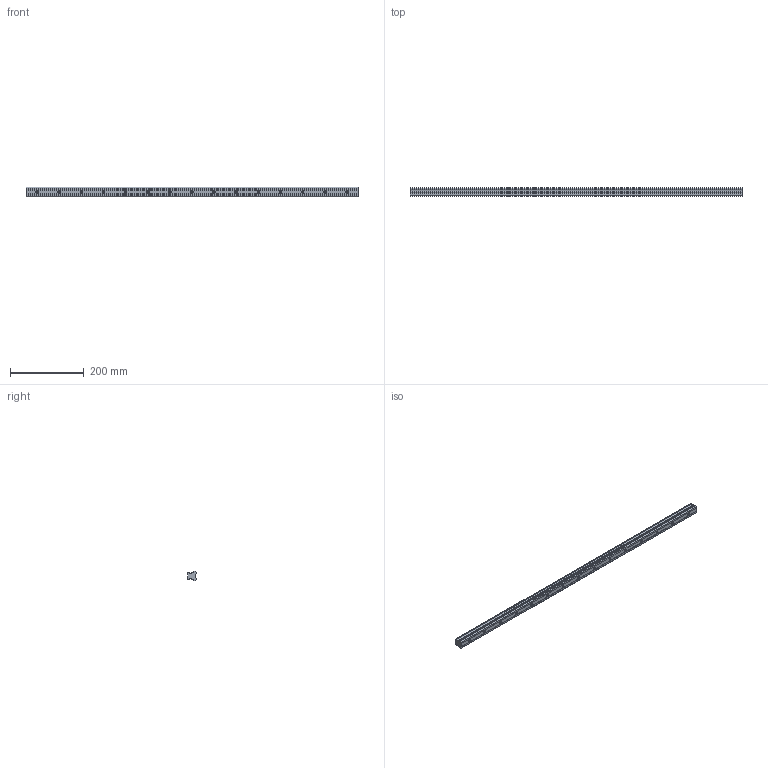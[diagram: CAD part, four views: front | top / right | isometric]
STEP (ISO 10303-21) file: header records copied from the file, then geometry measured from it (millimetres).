
FILE_DESCRIPTION (( 'STEP AP203' ), '1' );
FILE_NAME ('L1018.25R-0900.step', '2023-08-06T10:34:54', ( '' ), ( '' ), 'SwSTEP 2.0', 'SolidWorks 2019', '' );
FILE_SCHEMA (( 'CONFIG_CONTROL_DESIGN' ));
Length unit declared in the file: millimetre
Products named in the file (1): L1018.25R-0900
Bounding box: 900 x 21.8 x 25 mm (x, y, z)
Volume: 374299.3 mm3; surface area: 90215 mm2
Topology: 1 solids, 1 shells, 164 faces, 381 edges, 219 vertices
Faces by surface type: cylinder 63, cone 60, plane 41
Entity records: 4508 total; most frequent: DIRECTION 837, CARTESIAN_POINT 735, ORIENTED_EDGE 702, EDGE_CURVE 351, AXIS2_PLACEMENT_3D 321, VERTEX_POINT 219, LINE 195, VECTOR 195
